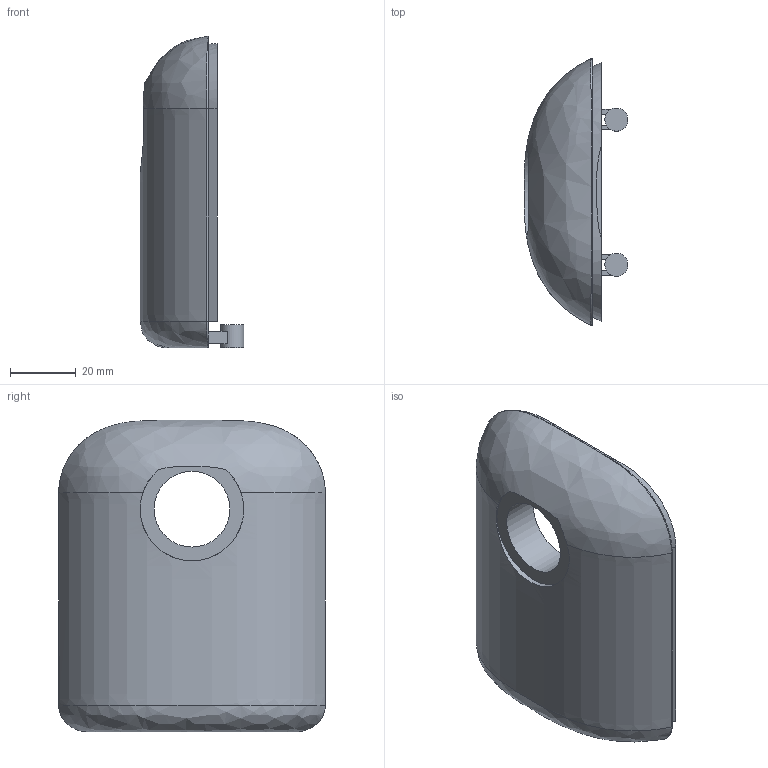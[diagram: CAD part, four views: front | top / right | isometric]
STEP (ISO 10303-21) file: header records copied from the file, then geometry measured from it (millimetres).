
FILE_DESCRIPTION(('Open CASCADE Model'),'2;1');
FILE_NAME('Open CASCADE Shape Model','2026-11-01T16:31:44',('Author'),( 'Open CASCADE'),'Open CASCADE STEP processor 8.0','build123d', 'Unknown');
FILE_SCHEMA(('AUTOMOTIVE_DESIGN { 1 0 10303 214 1 1 1 1 }'));
Length unit declared in the file: millimetre
Products named in the file (1): COMPOUND
Bounding box: 31.5 x 80.79 x 94.44 mm (x, y, z)
Volume: 30695.3 mm3; surface area: 24131.6 mm2
Topology: 1 solids, 1 shells, 73 faces, 193 edges, 124 vertices
Faces by surface type: plane 41, cylinder 14, offset 9, bspline 7, extrusion 2
Full cylindrical faces by diameter (mm): 1.7 x2, 3.6 x2, 6.4 x2, 7 x2, 23 x1
Entity records: 65854 total; most frequent: CARTESIAN_POINT 62657, ORIENTED_EDGE 382, PCURVE 382, DEFINITIONAL_REPRESENTATION 382, DIRECTION 374, B_SPLINE_CURVE_WITH_KNOTS 336, EDGE_CURVE 191, SURFACE_CURVE 182
